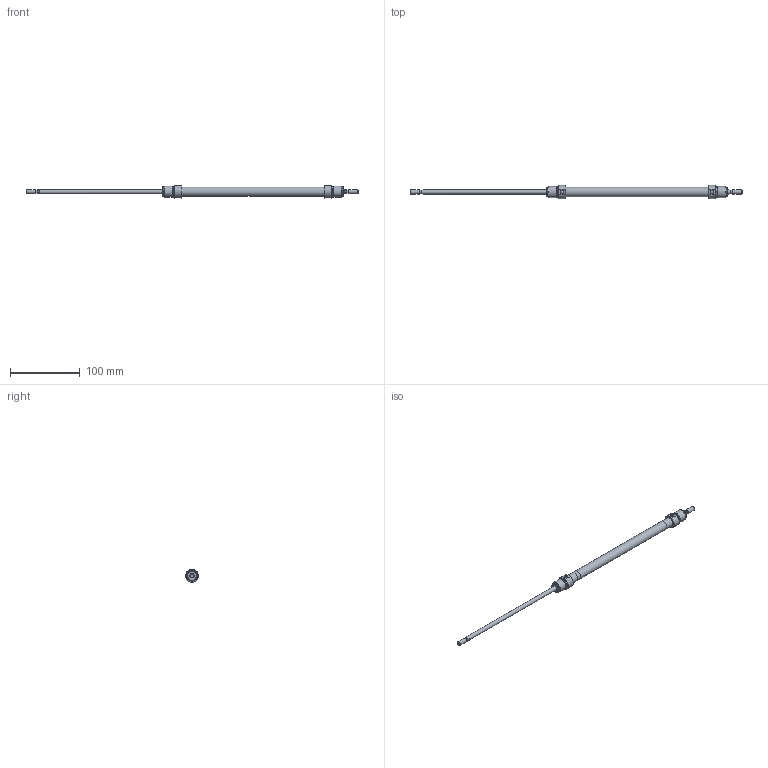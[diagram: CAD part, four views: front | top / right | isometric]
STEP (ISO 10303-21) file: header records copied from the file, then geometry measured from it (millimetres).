
FILE_DESCRIPTION( ( 'STEP AP203' ), '1' );
FILE_NAME( '//expscmdclustefs.cadenas.external/client_exchange/iodir/jobs/output/wkb68361141_no0/STEP/M101-012-0175-M__0__2_03.stp', ' ', ( ' ' ), ( ' ' ), 'PSStep 15.0.47', 'PARTsolutions', ' ' );
FILE_SCHEMA( ( 'CONFIG_CONTROL_DESIGN' ) );
Length unit declared in the file: millimetre
Products named in the file (3): M101-012-0175-M [0]; HI_M101-012-0175-M-[0]-z; HI_M101-012-0175-M-[0]-k
Assembly tree (2 placements, depth 2):
  M101-012-0175-M [0]
    HI_M101-012-0175-M-[0]-z
    HI_M101-012-0175-M-[0]-k
Bounding box: 476 x 18.73 x 17.86 mm (x, y, z)
Volume: 31551.6 mm3; surface area: 30086.5 mm2
Topology: 2 solids, 2 shells, 65 faces, 129 edges, 80 vertices
Faces by surface type: plane 26, cylinder 23, cone 14, torus 2
Full cylindrical faces by diameter (mm): 4.134 x2, 4.773 x2, 6 x6, 12 x2, 13.3 x1, 14.16 x4, 16 x4
Entity records: 1670 total; most frequent: CARTESIAN_POINT 324, DIRECTION 280, ORIENTED_EDGE 184, AXIS2_PLACEMENT_3D 128, EDGE_LOOP 116, EDGE_CURVE 92, FACE_OUTER_BOUND 88, VERTEX_POINT 76
